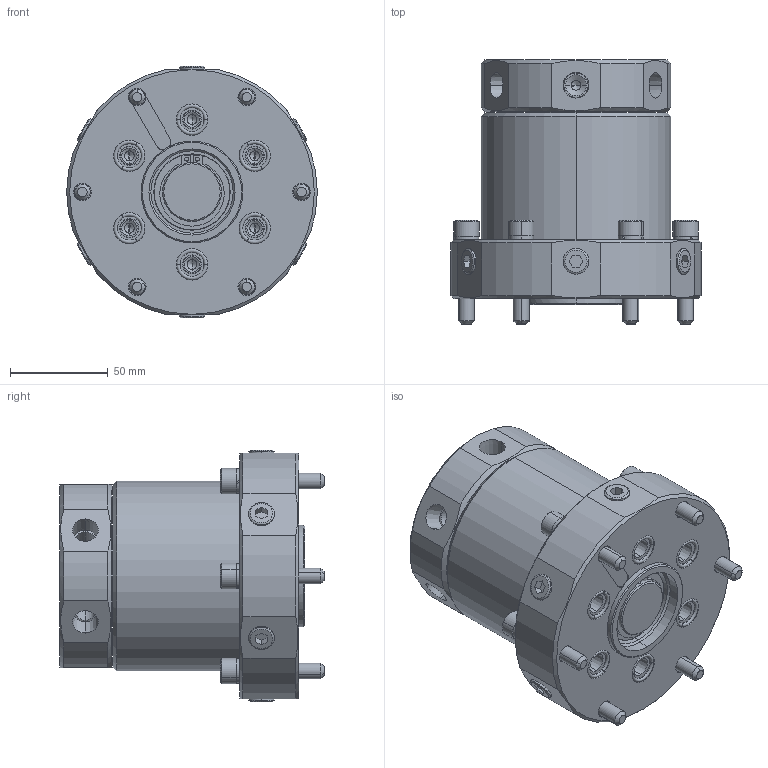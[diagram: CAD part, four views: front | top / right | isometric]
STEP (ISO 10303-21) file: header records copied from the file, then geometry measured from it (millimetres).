
FILE_DESCRIPTION((' '),'2;1');
FILE_NAME( 'TMC06-S-A.x_t.stp', '2024-09-03T08:16:50', (' '), ('--- Datakit www.datakit.com---'), ' Datakit CrossCadWare V2024.1 Dec 21 2023', 'Mastercam 2025', ' ');
FILE_SCHEMA(('AUTOMOTIVE_DESIGN { 1 0 10303 214 1 1 1 1 }'));
Length unit declared in the file: millimetre
Products named in the file (1): TMC06-S-A
Bounding box: 128 x 135 x 128.6 mm (x, y, z)
Volume: 1019176.3 mm3; surface area: 140351.8 mm2
Topology: 28 solids, 28 shells, 730 faces, 1598 edges, 922 vertices
Faces by surface type: cone 256, plane 227, cylinder 219, torus 28
Entity records: 20690 total; most frequent: CARTESIAN_POINT 3795, DIRECTION 3752, ORIENTED_EDGE 3100, AXIS2_PLACEMENT_3D 1551, EDGE_CURVE 1550, VERTEX_POINT 922, EDGE_LOOP 820, CIRCLE 748
